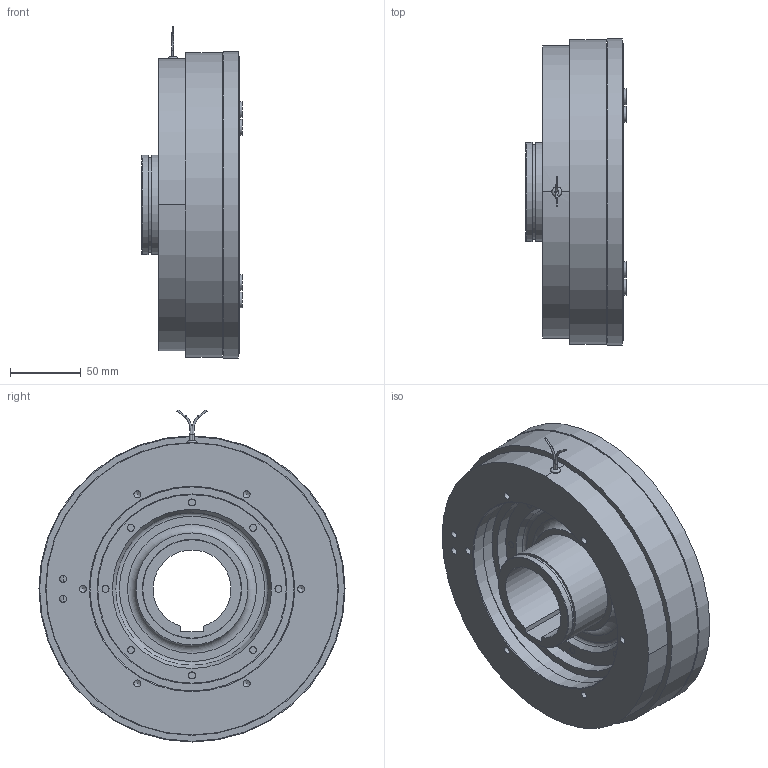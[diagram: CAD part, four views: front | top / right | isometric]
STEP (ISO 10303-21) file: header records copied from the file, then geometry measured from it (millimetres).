
FILE_DESCRIPTION(/* description */ (''),/* implementation_level */ '2;1');
FILE_NAME(/* name */ 'X:\INVENTOR\DISEGNI\08_Freni_Friz_Elettmag_Monodisco\08_26 EMSL_DF\EMSL_DF STEP\08_26_210_21 EMSL210_DF-BM@STEP.stp',/* time_stamp */ '2018-04-24T08:26:05+02:00',/* author */ ('stefano'),/* organization */ (''),/* preprocessor_version */ 'ST-DEVELOPER v17',/* originating_system */ 'Autodesk Inventor 2018',/* authorisation */ '');
FILE_SCHEMA (('AUTOMOTIVE_DESIGN { 1 0 10303 214 3 1 1 }'));
Length unit declared in the file: millimetre
Products named in the file (1): 08_26_210_21 EMSL210_DF-BM_Substitute_1
Bounding box: 71 x 216 x 234.22 mm (x, y, z)
Volume: 1294192.1 mm3; surface area: 301276.3 mm2
Topology: 3 solids, 3 shells, 400 faces, 1155 edges, 772 vertices
Faces by surface type: cylinder 202, plane 117, cone 66, torus 13, bspline 2
Full cylindrical faces by diameter (mm): 1.154 x2, 1.5 x1, 2 x8, 4.917 x16, 7 x8, 8.1 x4, 10 x8, 11 x8, 13 x8, 67 x1, 70 x2, 110 x1, 133 x2, 134 x2, 136 x1, 144 x1, 144.5 x1, 145 x1, 154.5 x1, 198.5 x1, 206.5 x1, 210 x1, 215 x1, 216 x1
Entity records: 14147 total; most frequent: CARTESIAN_POINT 2721, DIRECTION 2542, ORIENTED_EDGE 2268, EDGE_CURVE 1134, AXIS2_PLACEMENT_3D 1078, VERTEX_POINT 772, CIRCLE 679, EDGE_LOOP 522
